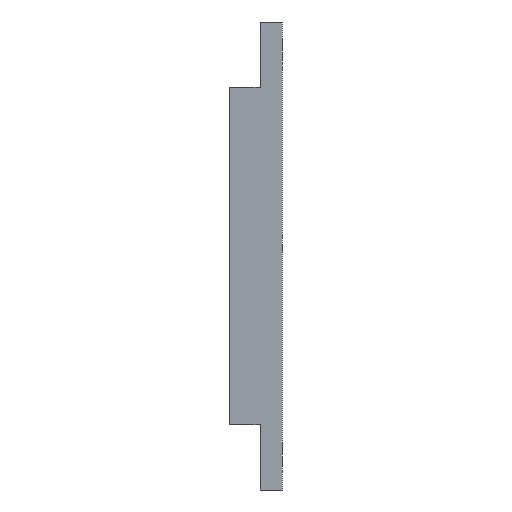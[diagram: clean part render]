
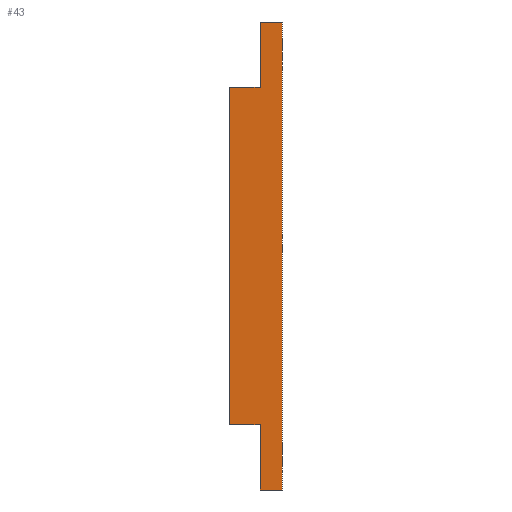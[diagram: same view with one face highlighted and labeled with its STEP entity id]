
A CAD part, left-side view. The second image highlights one B-rep face of the part: STEP entity #43.
In plain terms, the highlighted planar face has unit normal (-1, 0, -0.031).
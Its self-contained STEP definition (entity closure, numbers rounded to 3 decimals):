
#3 = EDGE_CURVE ( 'NONE', #143, #2520, #944, .T. ) ;
#13 = EDGE_CURVE ( 'NONE', #156, #1792, #931, .T. ) ;
#17 = VERTEX_POINT ( 'NONE', #982 ) ;
#20 = ORIENTED_EDGE ( 'NONE', *, *, #3, .F. ) ;
#21 = EDGE_LOOP ( 'NONE', ( #49, #20, #56, #54, #55, #62, #58, #188 ) ) ;
#25 = EDGE_CURVE ( 'NONE', #1792, #17, #973, .T. ) ;
#43 = ADVANCED_FACE ( 'NONE', ( #966 ), #989, .T. ) ;
#49 = ORIENTED_EDGE ( 'NONE', *, *, #60, .F. ) ;
#54 = ORIENTED_EDGE ( 'NONE', *, *, #1779, .T. ) ;
#55 = ORIENTED_EDGE ( 'NONE', *, *, #1778, .F. ) ;
#56 = ORIENTED_EDGE ( 'NONE', *, *, #158, .T. ) ;
#58 = ORIENTED_EDGE ( 'NONE', *, *, #13, .T. ) ;
#60 = EDGE_CURVE ( 'NONE', #2520, #17, #1011, .T. ) ;
#62 = ORIENTED_EDGE ( 'NONE', *, *, #1775, .F. ) ;
#125 = VERTEX_POINT ( 'NONE', #1105 ) ;
#143 = VERTEX_POINT ( 'NONE', #1137 ) ;
#156 = VERTEX_POINT ( 'NONE', #1160 ) ;
#158 = EDGE_CURVE ( 'NONE', #143, #125, #1206, .T. ) ;
#188 = ORIENTED_EDGE ( 'NONE', *, *, #25, .T. ) ;
#198 = VERTEX_POINT ( 'NONE', #1377 ) ;
#929 = VECTOR ( 'NONE', #988, 1000. ) ;
#930 = CARTESIAN_POINT ( 'NONE',  ( 564.137, 4.1, -95.32 ) ) ;
#931 = LINE ( 'NONE', #930, #929 ) ;
#941 = DIRECTION ( 'NONE',  ( 0., -1., 0. ) ) ;
#942 = VECTOR ( 'NONE', #941, 1000. ) ;
#943 = CARTESIAN_POINT ( 'NONE',  ( 562.879, 4.1, -55.3 ) ) ;
#944 = LINE ( 'NONE', #943, #942 ) ;
#961 = DIRECTION ( 'NONE',  ( -0.031, 0., 1. ) ) ;
#962 = DIRECTION ( 'NONE',  ( -1., 0., -0.031 ) ) ;
#966 = FACE_OUTER_BOUND ( 'NONE', #21, .T. ) ;
#967 = CARTESIAN_POINT ( 'NONE',  ( 564.137, 4.1, -95.32 ) ) ;
#970 = DIRECTION ( 'NONE',  ( 0., -1., 0. ) ) ;
#971 = VECTOR ( 'NONE', #970, 1000. ) ;
#972 = CARTESIAN_POINT ( 'NONE',  ( 565.582, 4.1, -141.3 ) ) ;
#973 = LINE ( 'NONE', #972, #971 ) ;
#974 = AXIS2_PLACEMENT_3D ( 'NONE', #967, #962, #961 ) ;
#982 = CARTESIAN_POINT ( 'NONE',  ( 565.582, 0., -141.3 ) ) ;
#988 = DIRECTION ( 'NONE',  ( 0.031, 0., -1. ) ) ;
#989 = PLANE ( 'NONE',  #974 ) ;
#1004 = DIRECTION ( 'NONE',  ( 0.031, 0., -1. ) ) ;
#1005 = VECTOR ( 'NONE', #1004, 1000. ) ;
#1006 = CARTESIAN_POINT ( 'NONE',  ( 564.137, 0., -95.32 ) ) ;
#1011 = LINE ( 'NONE', #1006, #1005 ) ;
#1105 = CARTESIAN_POINT ( 'NONE',  ( 563.256, 4.1, -67.3 ) ) ;
#1137 = CARTESIAN_POINT ( 'NONE',  ( 562.879, 4.1, -55.3 ) ) ;
#1160 = CARTESIAN_POINT ( 'NONE',  ( 565.205, 4.1, -129.3 ) ) ;
#1203 = DIRECTION ( 'NONE',  ( 0.031, 0., -1. ) ) ;
#1204 = VECTOR ( 'NONE', #1203, 1000. ) ;
#1205 = CARTESIAN_POINT ( 'NONE',  ( 564.137, 4.1, -95.32 ) ) ;
#1206 = LINE ( 'NONE', #1205, #1204 ) ;
#1377 = CARTESIAN_POINT ( 'NONE',  ( 565.205, 9.7, -129.3 ) ) ;
#1775 = EDGE_CURVE ( 'NONE', #156, #198, #3239, .T. ) ;
#1778 = EDGE_CURVE ( 'NONE', #198, #1793, #3269, .T. ) ;
#1779 = EDGE_CURVE ( 'NONE', #125, #1793, #3318, .T. ) ;
#1792 = VERTEX_POINT ( 'NONE', #3322 ) ;
#1793 = VERTEX_POINT ( 'NONE', #3296 ) ;
#2520 = VERTEX_POINT ( 'NONE', #3382 ) ;
#3239 = LINE ( 'NONE', #3267, #3266 ) ;
#3265 = DIRECTION ( 'NONE',  ( 0., 1., 0. ) ) ;
#3266 = VECTOR ( 'NONE', #3265, 1000. ) ;
#3267 = CARTESIAN_POINT ( 'NONE',  ( 565.205, -304.148, -129.3 ) ) ;
#3268 = CARTESIAN_POINT ( 'NONE',  ( 563.256, 9.7, -67.3 ) ) ;
#3269 = LINE ( 'NONE', #3268, #3321 ) ;
#3296 = CARTESIAN_POINT ( 'NONE',  ( 563.256, 9.7, -67.3 ) ) ;
#3315 = DIRECTION ( 'NONE',  ( 0., 1., 0. ) ) ;
#3316 = VECTOR ( 'NONE', #3315, 1000. ) ;
#3317 = CARTESIAN_POINT ( 'NONE',  ( 563.256, -304.148, -67.3 ) ) ;
#3318 = LINE ( 'NONE', #3317, #3316 ) ;
#3320 = DIRECTION ( 'NONE',  ( -0.031, 0., 1. ) ) ;
#3321 = VECTOR ( 'NONE', #3320, 1000. ) ;
#3322 = CARTESIAN_POINT ( 'NONE',  ( 565.582, 4.1, -141.3 ) ) ;
#3382 = CARTESIAN_POINT ( 'NONE',  ( 562.879, 0., -55.3 ) ) ;
